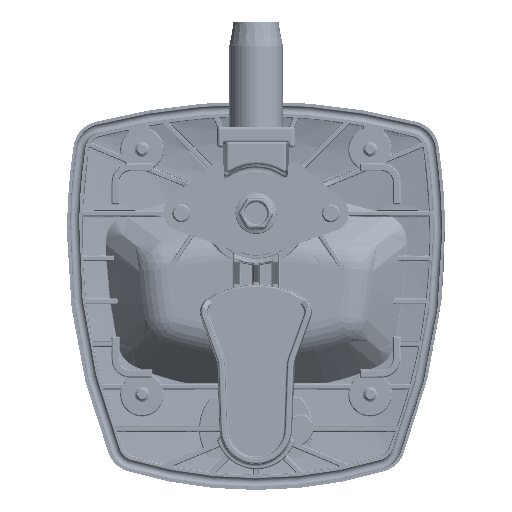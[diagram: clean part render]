
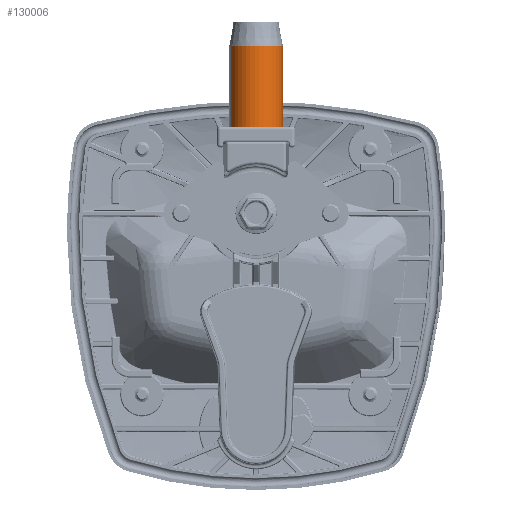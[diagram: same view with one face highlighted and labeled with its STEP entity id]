
A CAD part, top view. The second image highlights one B-rep face of the part: STEP entity #130006.
In plain terms, the highlighted cylindrical face has radius 8.95 mm (diameter 17.9 mm), a partial arc.
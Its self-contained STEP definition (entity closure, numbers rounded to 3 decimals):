
#3200 = VERTEX_POINT ( 'NONE', #4951 ) ;
#4951 = CARTESIAN_POINT ( 'NONE',  ( 0., 27., 8.95 ) ) ;
#47521 = AXIS2_PLACEMENT_3D ( 'NONE', #97719, #97723, #97726 ) ;
#47536 = AXIS2_PLACEMENT_3D ( 'NONE', #97769, #97773, #97776 ) ;
#97719 = CARTESIAN_POINT ( 'NONE',  ( 0., 0., 0. ) ) ;
#97723 = DIRECTION ( 'NONE',  ( 0., -1., 0. ) ) ;
#97726 = DIRECTION ( 'NONE',  ( 0., 0., -1. ) ) ;
#97763 = CARTESIAN_POINT ( 'NONE',  ( 0., 0., 8.95 ) ) ;
#97766 = DIRECTION ( 'NONE',  ( 0., -1., 0. ) ) ;
#97769 = CARTESIAN_POINT ( 'NONE',  ( 0., 27., 0. ) ) ;
#97773 = DIRECTION ( 'NONE',  ( 0., -1., 0. ) ) ;
#97776 = DIRECTION ( 'NONE',  ( 0., 0., -1. ) ) ;
#97780 = CARTESIAN_POINT ( 'NONE',  ( 0., 0., -8.95 ) ) ;
#97782 = DIRECTION ( 'NONE',  ( 0., -1., 0. ) ) ;
#99273 = LINE ( 'NONE', #97763, #99275 ) ;
#99275 = VECTOR ( 'NONE', #97766, 1000. ) ;
#99278 = CIRCLE ( 'NONE', #47521, 8.95 ) ;
#99282 = VECTOR ( 'NONE', #97782, 1000. ) ;
#99283 = LINE ( 'NONE', #97780, #99282 ) ;
#99287 = CIRCLE ( 'NONE', #47536, 8.95 ) ;
#102328 = EDGE_LOOP ( 'NONE', ( #135500, #135502, #135505, #135507 ) ) ;
#103456 = AXIS2_PLACEMENT_3D ( 'NONE', #140893, #140891, #140889 ) ;
#104812 = FACE_OUTER_BOUND ( 'NONE', #102328, .T. ) ;
#104818 = CYLINDRICAL_SURFACE ( 'NONE', #103456, 8.95 ) ;
#125220 = EDGE_CURVE ( 'NONE', #136804, #136227, #99278, .T. ) ;
#125229 = EDGE_CURVE ( 'NONE', #3200, #136227, #99273, .T. ) ;
#125232 = EDGE_CURVE ( 'NONE', #136377, #3200, #99287, .T. ) ;
#125233 = EDGE_CURVE ( 'NONE', #136377, #136804, #99283, .T. ) ;
#130006 = ADVANCED_FACE ( 'NONE', ( #104812 ), #104818, .T. ) ;
#135500 = ORIENTED_EDGE ( 'NONE', *, *, #125232, .T. ) ;
#135502 = ORIENTED_EDGE ( 'NONE', *, *, #125229, .T. ) ;
#135505 = ORIENTED_EDGE ( 'NONE', *, *, #125220, .F. ) ;
#135507 = ORIENTED_EDGE ( 'NONE', *, *, #125233, .F. ) ;
#136227 = VERTEX_POINT ( 'NONE', #176208 ) ;
#136377 = VERTEX_POINT ( 'NONE', #176288 ) ;
#136804 = VERTEX_POINT ( 'NONE', #176526 ) ;
#140889 = DIRECTION ( 'NONE',  ( 0., 0., -1. ) ) ;
#140891 = DIRECTION ( 'NONE',  ( 0., -1., 0. ) ) ;
#140893 = CARTESIAN_POINT ( 'NONE',  ( 0., 0., 0. ) ) ;
#176208 = CARTESIAN_POINT ( 'NONE',  ( 0., 0., 8.95 ) ) ;
#176288 = CARTESIAN_POINT ( 'NONE',  ( 0., 27., -8.95 ) ) ;
#176526 = CARTESIAN_POINT ( 'NONE',  ( 0., 0., -8.95 ) ) ;
